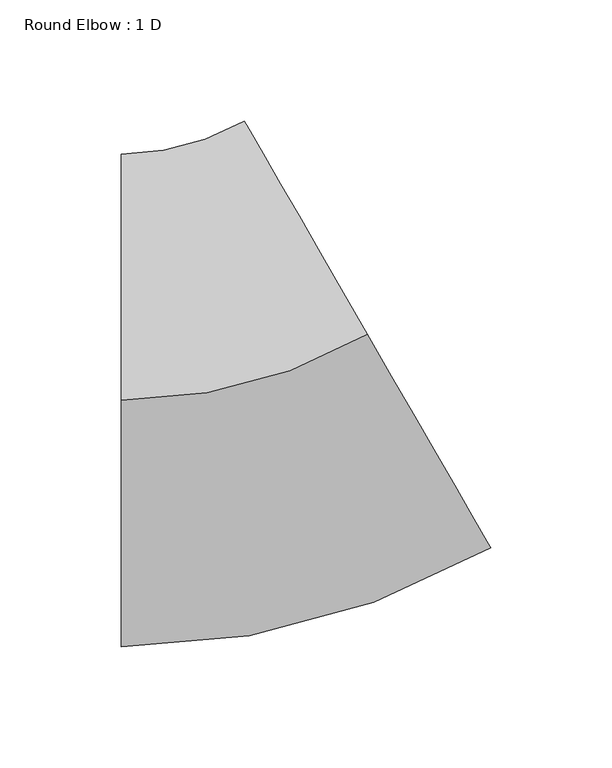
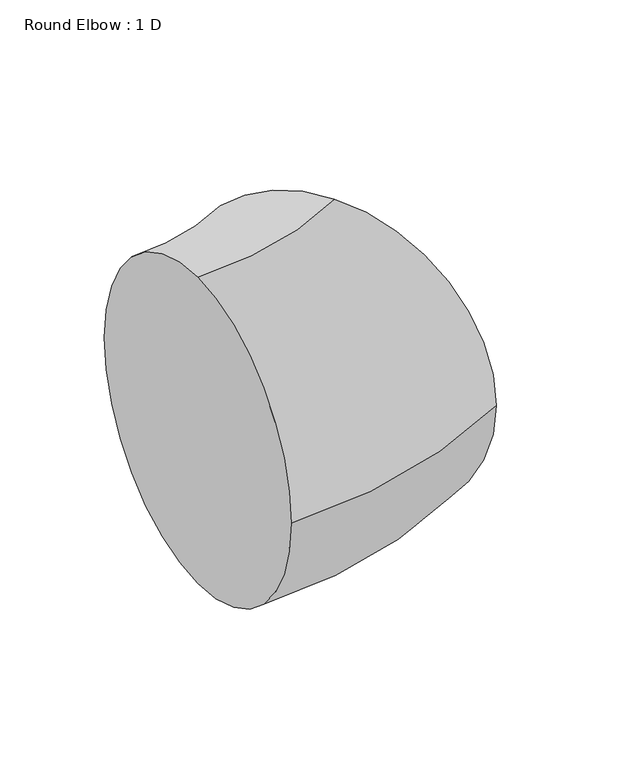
"""IFC4 building model written with IfcOpenShell, lengths in millimetres: duct fitting geometry, Round Elbow : 1 D."""

from ifc_helpers import new_model, si_unit, point, frame, origin, place, context, project, spatial, circle_curve, ellipse_curve, trimmed, source, transform, mapped, element, save
from ifc_brep_helpers import plane_surface, revolved_surface, advanced_brep


def round_elbow_1_d_20610a6e(model_context):
    return source(origin(), model_context, "Body", "AdvancedBrep", [
        advanced_brep(
        [(-54.4472759, 0.0, 101.6), (-54.4472759, 101.6, 0.0), (-54.4472759, 0.0, -101.6), (-54.4472759, -101.6, 0.0), (47.1527241, 27.223638, 101.6), (97.9527241, -60.7645431, 0.0), (47.1527241, 27.223638, -101.6), (-3.6472759, 115.211819, 0.0)],
        [
            (0, 1, circle_curve(frame((-54.4472759, 0.0, 0.0), z_axis=(-1.0, 0.0, 0.0), x_axis=(0.0, 1.0, 0.0)), 101.6)),
            (1, 2, circle_curve(frame((-54.4472759, 0.0, 0.0), z_axis=(-1.0, 0.0, 0.0), x_axis=(0.0, 1.0, 0.0)), 101.6)),
            (2, 3, circle_curve(frame((-54.4472759, 0.0, 0.0), z_axis=(-1.0, 0.0, 0.0), x_axis=(0.0, 1.0, 0.0)), 101.6)),
            (3, 0, circle_curve(frame((-54.4472759, 0.0, 0.0), z_axis=(-1.0, 0.0, 0.0), x_axis=(0.0, 1.0, 0.0)), 101.6)),
            (4, 5, circle_curve(frame((47.1527241, 27.223638, 0.0), z_axis=(0.8660254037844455, 0.4999999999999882, 0.0), x_axis=(-0.4999999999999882, 0.8660254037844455, 0.0)), 101.6)),
            (5, 6, circle_curve(frame((47.1527241, 27.223638, 0.0), z_axis=(0.8660254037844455, 0.4999999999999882, 0.0), x_axis=(-0.4999999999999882, 0.8660254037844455, 0.0)), 101.6)),
            (6, 7, circle_curve(frame((47.1527241, 27.223638, 0.0), z_axis=(0.8660254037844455, 0.4999999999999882, 0.0), x_axis=(-0.4999999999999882, 0.8660254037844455, 0.0)), 101.6)),
            (7, 4, circle_curve(frame((47.1527241, 27.223638, 0.0), z_axis=(0.8660254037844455, 0.4999999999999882, 0.0), x_axis=(-0.4999999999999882, 0.8660254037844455, 0.0)), 101.6)),
            (7, 1, circle_curve(frame((-54.4472759, 203.2, 0.0), z_axis=(0.0, 0.0, -1.0), x_axis=(0.0, -1.0, 0.0)), 101.6)),
            (0, 4, circle_curve(frame((-54.4472759, 203.2, 101.6), z_axis=(0.0, 0.0, 1.0), x_axis=(0.0, -1.0, 0.0)), 203.2)),
            (6, 2, circle_curve(frame((-54.4472759, 203.2, -101.6), z_axis=(0.0, 0.0, -1.0), x_axis=(0.0, -1.0, 0.0)), 203.2)),
            (5, 3, circle_curve(frame((-54.4472759, 203.2, 0.0), z_axis=(0.0, 0.0, -1.0), x_axis=(0.0, -1.0, 0.0)), 304.8)),
        ],
        [
            plane_surface(frame((-54.4472759, 0.0, 0.0), z_axis=(-1.0, 0.0, 0.0), x_axis=(0.0, 0.0, 1.0))),
            plane_surface(frame((47.1527241, 27.223638, 0.0), z_axis=(0.8660254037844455, 0.4999999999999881, 0.0), x_axis=(0.0, 0.0, 1.0))),
            revolved_surface(trimmed(ellipse_curve(frame((-54.4472759, 0.0, 0.0), z_axis=(-1.0, 0.0, 0.0), x_axis=(0.0, 1.0, 0.0)), 101.6, 101.6), [point((-54.4472759, 0.0, 101.6))], [point((-54.4472759, 101.6, 0.0))], True, "CARTESIAN"), (-54.4472759, 203.2, 0.0), (0.0, 0.0, 1.0)),
            revolved_surface(trimmed(ellipse_curve(frame((-54.4472759, 0.0, 0.0), z_axis=(-1.0, 0.0, 0.0), x_axis=(0.0, 1.0, 0.0)), 101.6, 101.6), [point((-54.4472759, 101.6, 0.0))], [point((-54.4472759, 0.0, -101.6))], True, "CARTESIAN"), (-54.4472759, 203.2, 0.0), (0.0, 0.0, 1.0)),
            revolved_surface(trimmed(ellipse_curve(frame((-54.4472759, 0.0, 0.0), z_axis=(-1.0, 0.0, 0.0), x_axis=(0.0, 1.0, 0.0)), 101.6, 101.6), [point((-54.4472759, 0.0, -101.6))], [point((-54.4472759, -101.6, 0.0))], True, "CARTESIAN"), (-54.4472759, 203.2, 0.0), (0.0, 0.0, 1.0)),
            revolved_surface(trimmed(ellipse_curve(frame((-54.4472759, 0.0, 0.0), z_axis=(-1.0, 0.0, 0.0), x_axis=(0.0, 1.0, 0.0)), 101.6, 101.6), [point((-54.4472759, -101.6, 0.0))], [point((-54.4472759, 0.0, 101.6))], True, "CARTESIAN"), (-54.4472759, 203.2, 0.0), (0.0, 0.0, 1.0)),
        ],
        [
            (0, [[1, 2, 3, 4]]),
            (1, [[5, 6, 7, 8]]),
            (2, [[9, -1, 10, -8]]),
            (3, [[11, -2, -9, -7]]),
            (4, [[12, -3, -11, -6]]),
            (5, [[-10, -4, -12, -5]]),
        ],
    ),
    ])


if __name__ == "__main__":
    model = new_model("IFC4")
    model_context = context("Model", 3, world=origin())
    ifc_project = project(units=[si_unit("LENGTHUNIT", "METRE", prefix="MILLI")], contexts=[model_context])
    site = spatial("IfcSite", under=ifc_project)
    building = spatial("IfcBuilding", under=site)
    placement = place(None, origin())
    round_elbow_1_d_shape = round_elbow_1_d_20610a6e(model_context)
    element("IfcDuctFitting", 1, ObjectType="Round Elbow : 1 D", at=placement, inside=building, context=model_context, shape_type="MappedRepresentation", body=[
        mapped(round_elbow_1_d_shape, transform((0.0, 0.0, 0.0), x_axis=(1.0, 0.0, 0.0), y_axis=(0.0, 1.0, 0.0), z_axis=(0.0, 0.0, 1.0))),
    ])
    save(model, "model.ifc")
